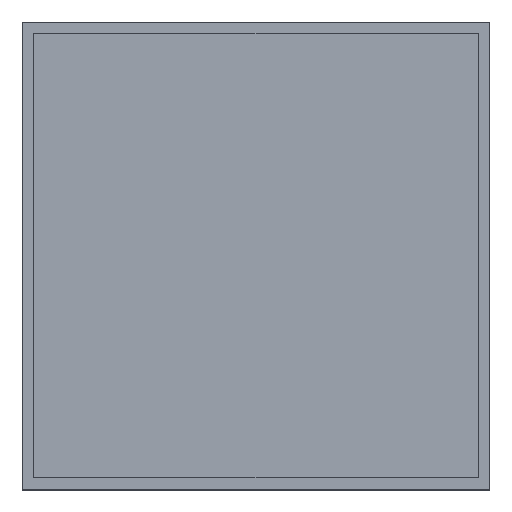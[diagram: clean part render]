
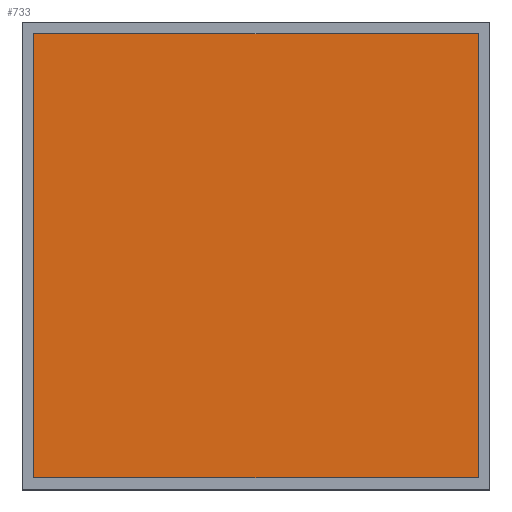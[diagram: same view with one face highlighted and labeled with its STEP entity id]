
A CAD part, top view. The second image highlights one B-rep face of the part: STEP entity #733.
In plain terms, the highlighted planar face has unit normal (0, 0, 1).
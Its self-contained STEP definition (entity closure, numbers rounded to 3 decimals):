
#419 = VERTEX_POINT('',#420);
#420 = CARTESIAN_POINT('',(-1.425,-1.425,1.3));
#427 = PLANE('',#428);
#428 = AXIS2_PLACEMENT_3D('',#429,#430,#431);
#429 = CARTESIAN_POINT('',(-1.425,-1.425,1.18));
#430 = DIRECTION('',(1.,0.,0.));
#431 = DIRECTION('',(0.,0.,1.));
#439 = PLANE('',#440);
#440 = AXIS2_PLACEMENT_3D('',#441,#442,#443);
#441 = CARTESIAN_POINT('',(-1.425,-1.425,1.18));
#442 = DIRECTION('',(0.,1.,0.));
#443 = DIRECTION('',(0.,0.,1.));
#480 = VERTEX_POINT('',#481);
#481 = CARTESIAN_POINT('',(-1.425,1.425,1.3));
#495 = PLANE('',#496);
#496 = AXIS2_PLACEMENT_3D('',#497,#498,#499);
#497 = CARTESIAN_POINT('',(-1.425,1.425,1.18));
#498 = DIRECTION('',(0.,1.,0.));
#499 = DIRECTION('',(0.,0.,1.));
#507 = EDGE_CURVE('',#419,#480,#508,.T.);
#508 = SURFACE_CURVE('',#509,(#513,#520),.PCURVE_S1.);
#509 = LINE('',#510,#511);
#510 = CARTESIAN_POINT('',(-1.425,-1.425,1.3));
#511 = VECTOR('',#512,1.);
#512 = DIRECTION('',(0.,1.,0.));
#513 = PCURVE('',#427,#514);
#514 = DEFINITIONAL_REPRESENTATION('',(#515),#519);
#515 = LINE('',#516,#517);
#516 = CARTESIAN_POINT('',(0.12,0.));
#517 = VECTOR('',#518,1.);
#518 = DIRECTION('',(0.,-1.));
#519 = ( GEOMETRIC_REPRESENTATION_CONTEXT(2) 
PARAMETRIC_REPRESENTATION_CONTEXT() REPRESENTATION_CONTEXT('2D SPACE',''
  ) );
#520 = PCURVE('',#521,#526);
#521 = PLANE('',#522);
#522 = AXIS2_PLACEMENT_3D('',#523,#524,#525);
#523 = CARTESIAN_POINT('',(-1.425,-1.425,1.3));
#524 = DIRECTION('',(0.,0.,1.));
#525 = DIRECTION('',(1.,0.,0.));
#526 = DEFINITIONAL_REPRESENTATION('',(#527),#531);
#527 = LINE('',#528,#529);
#528 = CARTESIAN_POINT('',(0.,0.));
#529 = VECTOR('',#530,1.);
#530 = DIRECTION('',(0.,1.));
#531 = ( GEOMETRIC_REPRESENTATION_CONTEXT(2) 
PARAMETRIC_REPRESENTATION_CONTEXT() REPRESENTATION_CONTEXT('2D SPACE',''
  ) );
#539 = VERTEX_POINT('',#540);
#540 = CARTESIAN_POINT('',(1.425,-1.425,1.3));
#547 = PLANE('',#548);
#548 = AXIS2_PLACEMENT_3D('',#549,#550,#551);
#549 = CARTESIAN_POINT('',(1.425,-1.425,1.18));
#550 = DIRECTION('',(1.,0.,0.));
#551 = DIRECTION('',(0.,0.,1.));
#590 = VERTEX_POINT('',#591);
#591 = CARTESIAN_POINT('',(1.425,1.425,1.3));
#612 = EDGE_CURVE('',#539,#590,#613,.T.);
#613 = SURFACE_CURVE('',#614,(#618,#625),.PCURVE_S1.);
#614 = LINE('',#615,#616);
#615 = CARTESIAN_POINT('',(1.425,-1.425,1.3));
#616 = VECTOR('',#617,1.);
#617 = DIRECTION('',(0.,1.,0.));
#618 = PCURVE('',#547,#619);
#619 = DEFINITIONAL_REPRESENTATION('',(#620),#624);
#620 = LINE('',#621,#622);
#621 = CARTESIAN_POINT('',(0.12,0.));
#622 = VECTOR('',#623,1.);
#623 = DIRECTION('',(0.,-1.));
#624 = ( GEOMETRIC_REPRESENTATION_CONTEXT(2) 
PARAMETRIC_REPRESENTATION_CONTEXT() REPRESENTATION_CONTEXT('2D SPACE',''
  ) );
#625 = PCURVE('',#521,#626);
#626 = DEFINITIONAL_REPRESENTATION('',(#627),#631);
#627 = LINE('',#628,#629);
#628 = CARTESIAN_POINT('',(2.85,0.));
#629 = VECTOR('',#630,1.);
#630 = DIRECTION('',(0.,1.));
#631 = ( GEOMETRIC_REPRESENTATION_CONTEXT(2) 
PARAMETRIC_REPRESENTATION_CONTEXT() REPRESENTATION_CONTEXT('2D SPACE',''
  ) );
#658 = EDGE_CURVE('',#419,#539,#659,.T.);
#659 = SURFACE_CURVE('',#660,(#664,#671),.PCURVE_S1.);
#660 = LINE('',#661,#662);
#661 = CARTESIAN_POINT('',(-1.425,-1.425,1.3));
#662 = VECTOR('',#663,1.);
#663 = DIRECTION('',(1.,0.,0.));
#664 = PCURVE('',#439,#665);
#665 = DEFINITIONAL_REPRESENTATION('',(#666),#670);
#666 = LINE('',#667,#668);
#667 = CARTESIAN_POINT('',(0.12,0.));
#668 = VECTOR('',#669,1.);
#669 = DIRECTION('',(0.,1.));
#670 = ( GEOMETRIC_REPRESENTATION_CONTEXT(2) 
PARAMETRIC_REPRESENTATION_CONTEXT() REPRESENTATION_CONTEXT('2D SPACE',''
  ) );
#671 = PCURVE('',#521,#672);
#672 = DEFINITIONAL_REPRESENTATION('',(#673),#677);
#673 = LINE('',#674,#675);
#674 = CARTESIAN_POINT('',(0.,0.));
#675 = VECTOR('',#676,1.);
#676 = DIRECTION('',(1.,0.));
#677 = ( GEOMETRIC_REPRESENTATION_CONTEXT(2) 
PARAMETRIC_REPRESENTATION_CONTEXT() REPRESENTATION_CONTEXT('2D SPACE',''
  ) );
#705 = EDGE_CURVE('',#480,#590,#706,.T.);
#706 = SURFACE_CURVE('',#707,(#711,#718),.PCURVE_S1.);
#707 = LINE('',#708,#709);
#708 = CARTESIAN_POINT('',(-1.425,1.425,1.3));
#709 = VECTOR('',#710,1.);
#710 = DIRECTION('',(1.,0.,0.));
#711 = PCURVE('',#495,#712);
#712 = DEFINITIONAL_REPRESENTATION('',(#713),#717);
#713 = LINE('',#714,#715);
#714 = CARTESIAN_POINT('',(0.12,0.));
#715 = VECTOR('',#716,1.);
#716 = DIRECTION('',(0.,1.));
#717 = ( GEOMETRIC_REPRESENTATION_CONTEXT(2) 
PARAMETRIC_REPRESENTATION_CONTEXT() REPRESENTATION_CONTEXT('2D SPACE',''
  ) );
#718 = PCURVE('',#521,#719);
#719 = DEFINITIONAL_REPRESENTATION('',(#720),#724);
#720 = LINE('',#721,#722);
#721 = CARTESIAN_POINT('',(0.,2.85));
#722 = VECTOR('',#723,1.);
#723 = DIRECTION('',(1.,0.));
#724 = ( GEOMETRIC_REPRESENTATION_CONTEXT(2) 
PARAMETRIC_REPRESENTATION_CONTEXT() REPRESENTATION_CONTEXT('2D SPACE',''
  ) );
#733 = ADVANCED_FACE('',(#734),#521,.T.);
#734 = FACE_BOUND('',#735,.T.);
#735 = EDGE_LOOP('',(#736,#737,#738,#739));
#736 = ORIENTED_EDGE('',*,*,#507,.F.);
#737 = ORIENTED_EDGE('',*,*,#658,.T.);
#738 = ORIENTED_EDGE('',*,*,#612,.T.);
#739 = ORIENTED_EDGE('',*,*,#705,.F.);
